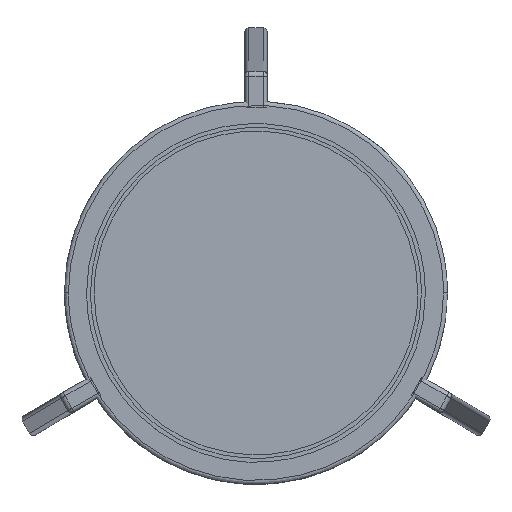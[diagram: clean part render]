
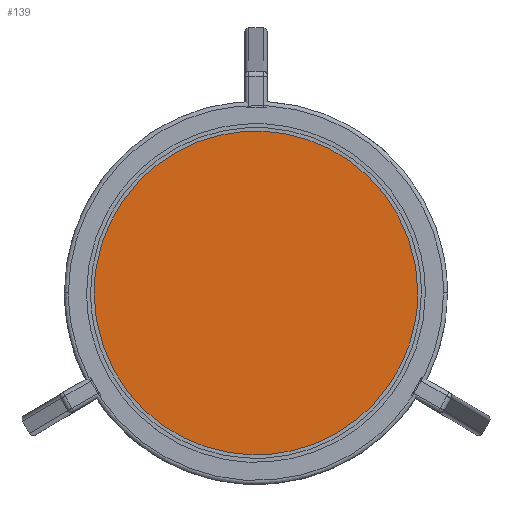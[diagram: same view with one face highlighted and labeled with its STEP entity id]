
A CAD part, top view. The second image highlights one B-rep face of the part: STEP entity #139.
In plain terms, the highlighted planar face has unit normal (0, 0, 1).
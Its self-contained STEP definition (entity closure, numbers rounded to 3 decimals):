
#139=ADVANCED_FACE('',(#264),#1831,.T.);
#264=FACE_OUTER_BOUND('',#389,.T.);
#389=EDGE_LOOP('',(#886,#887));
#886=ORIENTED_EDGE('',*,*,#1217,.F.);
#887=ORIENTED_EDGE('',*,*,#1213,.F.);
#1213=EDGE_CURVE('',#1682,#1684,#1383,.T.);
#1217=EDGE_CURVE('',#1684,#1682,#1387,.T.);
#1383=(
BOUNDED_CURVE()
B_SPLINE_CURVE(2,(#3686,#3687,#3688,#3689,#3690),.UNSPECIFIED.,.F.,.F.)
B_SPLINE_CURVE_WITH_KNOTS((3,2,3),(0.,263.894,527.788),
 .UNSPECIFIED.)
CURVE()
GEOMETRIC_REPRESENTATION_ITEM()
RATIONAL_B_SPLINE_CURVE((1.,0.707,1.,0.707,1.))
REPRESENTATION_ITEM('')
);
#1387=(
BOUNDED_CURVE()
B_SPLINE_CURVE(2,(#3700,#3701,#3702,#3703,#3704),.UNSPECIFIED.,.F.,.F.)
B_SPLINE_CURVE_WITH_KNOTS((3,2,3),(527.788,791.681,1055.575),
 .UNSPECIFIED.)
CURVE()
GEOMETRIC_REPRESENTATION_ITEM()
RATIONAL_B_SPLINE_CURVE((1.,0.707,1.,0.707,1.))
REPRESENTATION_ITEM('')
);
#1682=VERTEX_POINT('',#3682);
#1684=VERTEX_POINT('',#3684);
#1831=PLANE('',#1892);
#1892=AXIS2_PLACEMENT_3D('',#3670,#1936,$);
#1936=DIRECTION('',(0.,0.,1.));
#3670=CARTESIAN_POINT('',(-373.988,-61.37,567.564));
#3682=CARTESIAN_POINT('',(-4.823,-266.462,567.564));
#3684=CARTESIAN_POINT('',(-332.97,-266.462,567.564));
#3686=CARTESIAN_POINT('',(-4.823,-266.462,567.564));
#3687=CARTESIAN_POINT('',(-4.823,-430.535,567.564));
#3688=CARTESIAN_POINT('',(-168.896,-430.535,567.564));
#3689=CARTESIAN_POINT('',(-332.97,-430.535,567.564));
#3690=CARTESIAN_POINT('',(-332.97,-266.462,567.564));
#3700=CARTESIAN_POINT('',(-332.97,-266.462,567.564));
#3701=CARTESIAN_POINT('',(-332.97,-102.388,567.564));
#3702=CARTESIAN_POINT('',(-168.896,-102.388,567.564));
#3703=CARTESIAN_POINT('',(-4.823,-102.388,567.564));
#3704=CARTESIAN_POINT('',(-4.823,-266.462,567.564));
